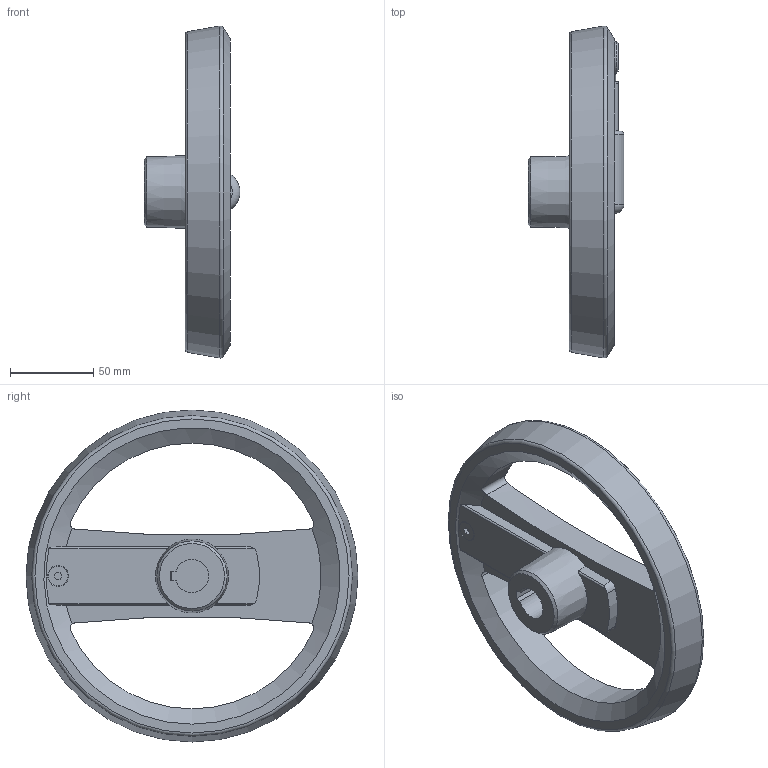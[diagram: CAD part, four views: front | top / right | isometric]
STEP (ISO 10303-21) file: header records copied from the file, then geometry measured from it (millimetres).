
FILE_DESCRIPTION( ( 'STEP AP203' ), '1' );
FILE_NAME( 'C:/Temp/Ganter_Step_05_03_2020/data/1_3/gn_924_7/gn_924_7_k/Handwheel with retractable handle GN 924.7-200-K20-R-SR (unactivated).stp', '2020-03-05T10:42:13', ( 'License CC BY-ND 4.0' ), ( 'CADENAS' ), ' ', 'PARTsolutions', ' ' );
FILE_SCHEMA( ( 'CONFIG_CONTROL_DESIGN' ) );
Length unit declared in the file: millimetre
Products named in the file (3): Handwheel with retractable handle GN 924.7-200-K20-R-SR (unactivated); _Umleggriff-Handrad GN 924.7-200-K20-R-SR-1; _Umleggriff-Handrad GN 924.7-200-K20-R-SR (0)-2
Assembly tree (2 placements, depth 2):
  Handwheel with retractable handle GN 924.7-200-K20-R-SR (unactivated)
    _Umleggriff-Handrad GN 924.7-200-K20-R-SR-1
    _Umleggriff-Handrad GN 924.7-200-K20-R-SR (0)-2
Bounding box: 57.7 x 199.58 x 199.58 mm (x, y, z)
Volume: 413486.6 mm3; surface area: 85962.5 mm2
Topology: 2 solids, 2 shells, 105 faces, 273 edges, 175 vertices
Faces by surface type: plane 45, cylinder 40, cone 10, torus 8, sphere 2
Full cylindrical faces by diameter (mm): 4 x4, 5 x1, 8 x1, 12 x1, 15 x1, 18.5 x1, 20 x1, 25 x2, 26.6 x1
Entity records: 3485 total; most frequent: CARTESIAN_POINT 964, DIRECTION 510, ORIENTED_EDGE 462, EDGE_CURVE 231, AXIS2_PLACEMENT_3D 208, VERTEX_POINT 167, EDGE_LOOP 147, FACE_OUTER_BOUND 125
